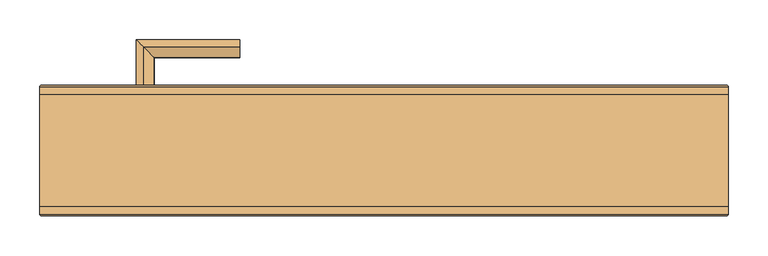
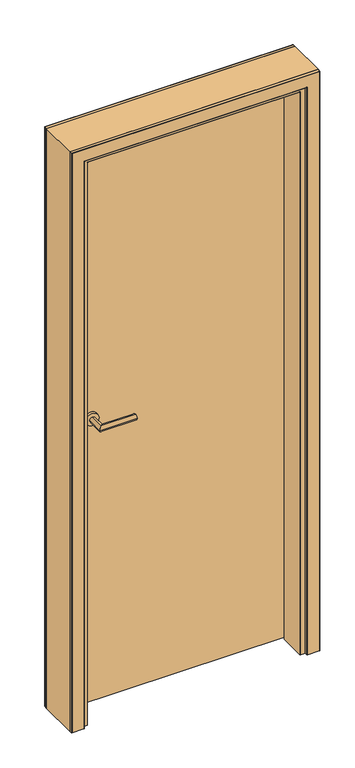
"""IFC4 building model written with IfcOpenShell, lengths in millimetres: door geometry, Doors_Swing_Strugal_Aluminium-Doors_Strugal-a3002iv_INT : Doors_Swing_Strugal_Aluminium-Doors_Strugal-a3002iv_INT."""

from ifc_helpers import new_model, si_unit, point, frame, frame_2d, origin, place, context, project, spatial, polyline, circle_curve, ellipse_curve, trimmed, segment, composite_curve, outline, extrude, source, transform, mapped, element, save
from ifc_brep_helpers import plane_surface, cylinder_surface, advanced_brep


def door_5d8b922e(model_context):
    return source(origin(), model_context, "Body", "SolidModel", [
        extrude(outline(composite_curve([segment(trimmed(circle_curve(frame_2d((1050.0, -301.4999348)), 22.5), [point((1050.0, -278.9999348))], [point((1050.0, -323.9999348))], False, "CARTESIAN"), True, "CONTINUOUS"), segment(trimmed(circle_curve(frame_2d((1050.0, -301.4999348)), 22.5), [point((1050.0, -323.9999348))], [point((1050.0, -278.9999348))], False, "CARTESIAN"), True, "CONTINUOUS")], self_intersect=False)), frame((0.0, 20.0210041, 0.0), z_axis=(0.0, 1.0, 0.0), x_axis=(0.0, 0.0, 1.0)), (0.0, 0.0, 1.0), 9.0),
        advanced_brep(
        [(-312.3121844, 20.0210041, 1050.0), (-303.5621844, 20.0210041, 1059.0214197), (-290.2883371, 20.0210041, 1051.6217874), (-290.2883371, 20.0210041, 1048.3782126), (-303.5621844, 20.0210041, 1040.9785803), (-312.3121844, -41.6703659, 1050.0), (-303.5621844, -32.9203659, 1059.0214197), (-303.5621844, -32.9203659, 1040.9785803), (-181.7133302, -41.6703659, 1050.0), (-181.7133302, -32.9203659, 1040.9785803), (-181.7133302, -19.6465185, 1048.3782126), (-181.7133302, -19.6465185, 1051.6217874), (-181.7133302, -32.9203659, 1059.0214197), (-290.2883371, -19.6465185, 1048.3782126), (-290.2883371, -19.6465185, 1051.6217874)],
        [
            (0, 1, circle_curve(frame((-303.2865551, 20.0210041, 1050.0), z_axis=(0.0, 1.0, 0.0), x_axis=(-1.0, 0.0, 0.0)), 9.0256293)),
            (1, 2, circle_curve(frame((-303.1101677, 20.0210041, 1044.2267939), z_axis=(0.0, 1.0, 0.0), x_axis=(-1.0, 0.0, 0.0)), 14.8015293)),
            (2, 3, circle_curve(frame((-293.1002778, 20.0210041, 1050.0), z_axis=(0.0, 1.0, 0.0), x_axis=(-1.0, 0.0, 0.0)), 3.2461062)),
            (3, 4, circle_curve(frame((-303.1101677, 20.0210041, 1055.7732061), z_axis=(0.0, 1.0, 0.0), x_axis=(-1.0, 0.0, 0.0)), 14.8015293)),
            (4, 0, circle_curve(frame((-303.2865551, 20.0210041, 1050.0), z_axis=(0.0, 1.0, 0.0), x_axis=(-1.0, 0.0, 0.0)), 9.0256293)),
            (0, 5),
            (5, 6, ellipse_curve(frame((-303.2865551, -32.6447366, 1050.0), z_axis=(-0.7071067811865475, 0.7071067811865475, 0.0), x_axis=(0.7071067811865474, 0.7071067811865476, 0.0)), 12.7641674, 9.0256293)),
            (6, 1),
            (4, 7),
            (7, 5, ellipse_curve(frame((-303.2865551, -32.6447366, 1050.0), z_axis=(-0.7071067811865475, 0.7071067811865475, 0.0), x_axis=(0.7071067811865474, 0.7071067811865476, 0.0)), 12.7641674, 9.0256293)),
            (8, 9, circle_curve(frame((-181.7133302, -32.6447366, 1050.0), z_axis=(1.0, 0.0, 0.0), x_axis=(0.0, -1.0, 0.0)), 9.0256293)),
            (9, 10, circle_curve(frame((-181.7133302, -32.4683492, 1055.7732061), z_axis=(1.0, 0.0, 0.0), x_axis=(0.0, -1.0, 0.0)), 14.8015293)),
            (10, 11, circle_curve(frame((-181.7133302, -22.4584593, 1050.0), z_axis=(1.0, 0.0, 0.0), x_axis=(0.0, -1.0, 0.0)), 3.2461062)),
            (11, 12, circle_curve(frame((-181.7133302, -32.4683492, 1044.2267939), z_axis=(1.0, 0.0, 0.0), x_axis=(0.0, -1.0, 0.0)), 14.8015293)),
            (12, 8, circle_curve(frame((-181.7133302, -32.6447366, 1050.0), z_axis=(1.0, 0.0, 0.0), x_axis=(0.0, -1.0, 0.0)), 9.0256293)),
            (5, 8),
            (12, 6),
            (7, 9),
            (3, 13),
            (13, 7, ellipse_curve(frame((-303.1101677, -32.4683492, 1055.7732061), z_axis=(-0.7071067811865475, 0.7071067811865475, 0.0), x_axis=(0.7071067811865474, 0.7071067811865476, 0.0)), 20.9325235, 14.8015293)),
            (2, 14),
            (14, 13, ellipse_curve(frame((-293.1002778, -22.4584593, 1050.0), z_axis=(-0.7071067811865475, 0.7071067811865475, 0.0), x_axis=(0.7071067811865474, 0.7071067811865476, 0.0)), 4.5906874, 3.2461062)),
            (6, 14, ellipse_curve(frame((-303.1101677, -32.4683492, 1044.2267939), z_axis=(-0.7071067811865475, 0.7071067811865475, 0.0), x_axis=(0.7071067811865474, 0.7071067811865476, 0.0)), 20.9325235, 14.8015293)),
            (13, 10),
            (14, 11),
        ],
        [
            plane_surface(frame((-301.4999348, 20.0210041, 1050.0), z_axis=(0.0, 1.0, 0.0), x_axis=(0.0, 0.0, 1.0))),
            cylinder_surface(frame((-303.2865551, 20.0210041, 1050.0), z_axis=(0.0, 1.0, 0.0), x_axis=(-1.0, 0.0, 0.0)), 9.0256293),
            plane_surface(frame((-181.7133302, -30.8581162, 1050.0), z_axis=(1.0, 0.0, 0.0), x_axis=(0.0, 0.0, 1.0))),
            cylinder_surface(frame((-301.4999348, -32.6447366, 1050.0), z_axis=(-1.0, 0.0, 0.0), x_axis=(0.0, -1.0, 0.0)), 9.0256293),
            cylinder_surface(frame((-303.1101677, 20.0210041, 1055.7732061), z_axis=(0.0, 1.0, 0.0), x_axis=(-1.0, 0.0, 0.0)), 14.8015293),
            cylinder_surface(frame((-293.1002778, 20.0210041, 1050.0), z_axis=(0.0, 1.0, 0.0), x_axis=(-1.0, 0.0, 0.0)), 3.2461062),
            cylinder_surface(frame((-303.1101677, 20.0210041, 1044.2267939), z_axis=(0.0, 1.0, 0.0), x_axis=(-1.0, 0.0, 0.0)), 14.8015293),
            cylinder_surface(frame((-301.4999348, -32.4683492, 1055.7732061), z_axis=(-1.0, 0.0, 0.0), x_axis=(0.0, -1.0, 0.0)), 14.8015293),
            cylinder_surface(frame((-301.4999348, -22.4584593, 1050.0), z_axis=(-1.0, 0.0, 0.0), x_axis=(0.0, -1.0, 0.0)), 3.2461062),
            cylinder_surface(frame((-301.4999348, -32.4683492, 1044.2267939), z_axis=(-1.0, 0.0, 0.0), x_axis=(0.0, -1.0, 0.0)), 14.8015293),
        ],
        [
            (0, [[1, 2, 3, 4, 5]]),
            (1, [[6, 7, 8, -1]]),
            (1, [[9, 10, -6, -5]]),
            (2, [[11, 12, 13, 14, 15]]),
            (3, [[16, -15, 17, -7]]),
            (3, [[18, -11, -16, -10]]),
            (4, [[19, 20, -9, -4]]),
            (5, [[21, 22, -19, -3]]),
            (6, [[-8, 23, -21, -2]]),
            (7, [[24, -12, -18, -20]]),
            (8, [[25, -13, -24, -22]]),
            (9, [[-17, -14, -25, -23]]),
        ],
    ),
        extrude(outline(composite_curve([segment(trimmed(circle_curve(frame_2d((1050.0, -301.4999348)), 22.5), [point((1050.0, -278.9999348))], [point((1050.0, -323.9999348))], False, "CARTESIAN"), True, "CONTINUOUS"), segment(trimmed(circle_curve(frame_2d((1050.0, -301.4999348)), 22.5), [point((1050.0, -323.9999348))], [point((1050.0, -278.9999348))], False, "CARTESIAN"), True, "CONTINUOUS")], self_intersect=False)), frame((0.0, 69.0195713, 0.0), z_axis=(0.0, 1.0, 0.0), x_axis=(0.0, 0.0, 1.0)), (0.0, 0.0, 1.0), 9.0),
        advanced_brep(
        [(-312.3121844, 78.0195713, 1050.0), (-303.5621844, 78.0195713, 1040.9785803), (-290.2883371, 78.0195713, 1048.3782126), (-290.2883371, 78.0195713, 1051.6217874), (-303.5621844, 78.0195713, 1059.0214197), (-312.3121844, 139.7109413, 1050.0), (-303.5621844, 130.9609413, 1040.9785803), (-303.5621844, 130.9609413, 1059.0214197), (-181.7133302, 139.7109413, 1050.0), (-181.7133302, 130.9609413, 1059.0214197), (-181.7133302, 117.6870939, 1051.6217874), (-181.7133302, 117.6870939, 1048.3782126), (-181.7133302, 130.9609413, 1040.9785803), (-290.2883371, 117.6870939, 1051.6217874), (-290.2883371, 117.6870939, 1048.3782126)],
        [
            (0, 1, circle_curve(frame((-303.2865551, 78.0195713, 1050.0), z_axis=(0.0, -1.0, 0.0), x_axis=(-1.0, 0.0, 0.0)), 9.0256293)),
            (1, 2, circle_curve(frame((-303.1101677, 78.0195713, 1055.7732061), z_axis=(0.0, -1.0, 0.0), x_axis=(-1.0, 0.0, 0.0)), 14.8015293)),
            (2, 3, circle_curve(frame((-293.1002778, 78.0195713, 1050.0), z_axis=(0.0, -1.0, 0.0), x_axis=(-1.0, 0.0, 0.0)), 3.2461062)),
            (3, 4, circle_curve(frame((-303.1101677, 78.0195713, 1044.2267939), z_axis=(0.0, -1.0, 0.0), x_axis=(-1.0, 0.0, 0.0)), 14.8015293)),
            (4, 0, circle_curve(frame((-303.2865551, 78.0195713, 1050.0), z_axis=(0.0, -1.0, 0.0), x_axis=(-1.0, 0.0, 0.0)), 9.0256293)),
            (0, 5),
            (5, 6, ellipse_curve(frame((-303.2865551, 130.685312, 1050.0), z_axis=(-0.7071067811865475, -0.7071067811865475, 0.0), x_axis=(0.7071067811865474, -0.7071067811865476, 0.0)), 12.7641674, 9.0256293)),
            (6, 1),
            (4, 7),
            (7, 5, ellipse_curve(frame((-303.2865551, 130.685312, 1050.0), z_axis=(-0.7071067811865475, -0.7071067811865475, 0.0), x_axis=(0.7071067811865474, -0.7071067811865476, 0.0)), 12.7641674, 9.0256293)),
            (8, 9, circle_curve(frame((-181.7133302, 130.685312, 1050.0), z_axis=(1.0, 0.0, 0.0), x_axis=(0.0, 1.0, 0.0)), 9.0256293)),
            (9, 10, circle_curve(frame((-181.7133302, 130.5089246, 1044.2267939), z_axis=(1.0, 0.0, 0.0), x_axis=(0.0, 1.0, 0.0)), 14.8015293)),
            (10, 11, circle_curve(frame((-181.7133302, 120.4990347, 1050.0), z_axis=(1.0, 0.0, 0.0), x_axis=(0.0, 1.0, 0.0)), 3.2461062)),
            (11, 12, circle_curve(frame((-181.7133302, 130.5089246, 1055.7732061), z_axis=(1.0, 0.0, 0.0), x_axis=(0.0, 1.0, 0.0)), 14.8015293)),
            (12, 8, circle_curve(frame((-181.7133302, 130.685312, 1050.0), z_axis=(1.0, 0.0, 0.0), x_axis=(0.0, 1.0, 0.0)), 9.0256293)),
            (5, 8),
            (12, 6),
            (7, 9),
            (3, 13),
            (13, 7, ellipse_curve(frame((-303.1101677, 130.5089246, 1044.2267939), z_axis=(-0.7071067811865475, -0.7071067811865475, 0.0), x_axis=(0.7071067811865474, -0.7071067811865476, 0.0)), 20.9325235, 14.8015293)),
            (2, 14),
            (14, 13, ellipse_curve(frame((-293.1002778, 120.4990347, 1050.0), z_axis=(-0.7071067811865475, -0.7071067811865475, 0.0), x_axis=(0.7071067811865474, -0.7071067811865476, 0.0)), 4.5906874, 3.2461062)),
            (6, 14, ellipse_curve(frame((-303.1101677, 130.5089246, 1055.7732061), z_axis=(-0.7071067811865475, -0.7071067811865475, 0.0), x_axis=(0.7071067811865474, -0.7071067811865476, 0.0)), 20.9325235, 14.8015293)),
            (13, 10),
            (14, 11),
        ],
        [
            plane_surface(frame((-301.4999348, 78.0195713, 1050.0), z_axis=(0.0, -1.0, 0.0), x_axis=(0.0, 0.0, -1.0))),
            cylinder_surface(frame((-303.2865551, 78.0195713, 1050.0), z_axis=(0.0, -1.0, 0.0), x_axis=(-1.0, 0.0, 0.0)), 9.0256293),
            plane_surface(frame((-181.7133302, 128.8986916, 1050.0), z_axis=(1.0, 0.0, 0.0), x_axis=(0.0, 0.0, -1.0))),
            cylinder_surface(frame((-301.4999348, 130.685312, 1050.0), z_axis=(-1.0, 0.0, 0.0), x_axis=(0.0, 1.0, 0.0)), 9.0256293),
            cylinder_surface(frame((-303.1101677, 78.0195713, 1044.2267939), z_axis=(0.0, -1.0, 0.0), x_axis=(-1.0, 0.0, 0.0)), 14.8015293),
            cylinder_surface(frame((-293.1002778, 78.0195713, 1050.0), z_axis=(0.0, -1.0, 0.0), x_axis=(-1.0, 0.0, 0.0)), 3.2461062),
            cylinder_surface(frame((-303.1101677, 78.0195713, 1055.7732061), z_axis=(0.0, -1.0, 0.0), x_axis=(-1.0, 0.0, 0.0)), 14.8015293),
            cylinder_surface(frame((-301.4999348, 130.5089246, 1044.2267939), z_axis=(-1.0, 0.0, 0.0), x_axis=(0.0, 1.0, 0.0)), 14.8015293),
            cylinder_surface(frame((-301.4999348, 120.4990347, 1050.0), z_axis=(-1.0, 0.0, 0.0), x_axis=(0.0, 1.0, 0.0)), 3.2461062),
            cylinder_surface(frame((-301.4999348, 130.5089246, 1055.7732061), z_axis=(-1.0, 0.0, 0.0), x_axis=(0.0, 1.0, 0.0)), 14.8015293),
        ],
        [
            (0, [[1, 2, 3, 4, 5]]),
            (1, [[6, 7, 8, -1]]),
            (1, [[9, 10, -6, -5]]),
            (2, [[11, 12, 13, 14, 15]]),
            (3, [[16, -15, 17, -7]]),
            (3, [[18, -11, -16, -10]]),
            (4, [[19, 20, -9, -4]]),
            (5, [[21, 22, -19, -3]]),
            (6, [[-8, 23, -21, -2]]),
            (7, [[24, -12, -18, -20]]),
            (8, [[25, -13, -24, -22]]),
            (9, [[-17, -14, -25, -23]]),
        ],
    ),
        extrude(outline(polyline([(0.0, -400.0), (2106.5, -400.0), (2106.5, 400.0), (0.0, 400.0), (0.0, 434.0009959), (2140.5009959, 434.0009959), (2140.5009959, -434.0009959), (0.0, -434.0009959), (0.0, -400.0)])), frame((0.0, -70.0, 0.0), z_axis=(0.0, 1.0, 0.0), x_axis=(0.0, 0.0, 1.0)), (0.0, 0.0, 1.0), 140.0),
        extrude(outline(polyline([(378.2381716, 29.0210041), (-378.2381716, 29.0210041), (-378.729808, 29.8139325), (-379.9347489, 68.1557733), (-379.4715845, 69.0195713), (379.4715845, 69.0195713), (379.9347489, 68.1557733), (378.729808, 29.8139325), (378.2381716, 29.0210041)])), frame((0.0, 0.0, 4.5068497), z_axis=(0.0, 0.0, 1.0), x_axis=(1.0, 0.0, 0.0)), (0.0, 0.0, 1.0), 2076.0133601),
        advanced_brep(
        [(-400.0, 70.0, 0.0), (-434.0000121, 70.0, 0.0), (-434.0000121, 80.2, 0.0), (-432.2000121, 82.0, 0.0), (-390.8000121, 82.0, 0.0), (-389.0000121, 80.2, 0.0), (-389.0000121, 70.0, 0.0), (-383.500507, 70.0, 0.0), (-382.001079, 68.4585793, 0.0), (-382.001079, 26.0, 0.0), (-371.4999348, 26.0, 0.0), (-371.4999348, -68.5, 0.0), (-372.9999348, -70.0, 0.0), (-389.0000121, -70.0, 0.0), (-389.0000121, -80.2, 0.0), (-390.8000121, -82.0, 0.0), (-432.2000121, -82.0, 0.0), (-434.0000121, -80.2, 0.0), (-434.0000121, -70.0, 0.0), (-400.0, -70.0, 0.0), (-400.0, -70.0, 2106.5), (-400.0, 70.0, 2106.5), (-434.0000121, -70.0, 2140.5000121), (434.0000121, -70.0, 2140.5000121), (434.0000121, -70.0, 0.0), (400.0, -70.0, 0.0), (400.0, -70.0, 2106.5), (-434.0000121, -80.2, 2140.5000121), (-432.2000121, -82.0, 2138.7000121), (-390.8000121, -82.0, 2097.3000121), (390.8000121, -82.0, 2097.3000121), (390.8000121, -82.0, 0.0), (432.2000121, -82.0, 0.0), (432.2000121, -82.0, 2138.7000121), (-389.0000121, -80.2, 2095.5000121), (-389.0000121, -70.0, 2095.5000121), (-372.9999348, -70.0, 2079.4999348), (372.9999348, -70.0, 2079.4999348), (372.9999348, -70.0, 0.0), (389.0000121, -70.0, 0.0), (389.0000121, -70.0, 2095.5000121), (-371.4999348, -68.5, 2077.9999348), (-371.4999348, 26.0, 2077.9999348), (-382.001079, 26.0, 2088.501079), (382.001079, 26.0, 2088.501079), (382.001079, 26.0, 0.0), (371.4999348, 26.0, 0.0), (371.4999348, 26.0, 2077.9999348), (-382.001079, 68.4585793, 2088.501079), (-383.500507, 70.0, 2090.000507), (-389.0000121, 70.0, 2095.5000121), (389.0000121, 70.0, 2095.5000121), (389.0000121, 70.0, 0.0), (383.500507, 70.0, 0.0), (383.500507, 70.0, 2090.000507), (-389.0000121, 80.2, 2095.5000121), (-390.8000121, 82.0, 2097.3000121), (-432.2000121, 82.0, 2138.7000121), (432.2000121, 82.0, 2138.7000121), (432.2000121, 82.0, 0.0), (390.8000121, 82.0, 0.0), (390.8000121, 82.0, 2097.3000121), (-434.0000121, 80.2, 2140.5000121), (-434.0000121, 70.0, 2140.5000121), (400.0, 70.0, 2106.5), (400.0, 70.0, 0.0), (434.0000121, 70.0, 0.0), (434.0000121, 70.0, 2140.5000121), (434.0000121, -80.2, 0.0), (389.0000121, -80.2, 0.0), (371.4999348, -68.5, 0.0), (382.001079, 68.4585793, 0.0), (389.0000121, 80.2, 0.0), (434.0000121, 80.2, 0.0), (434.0000121, 80.2, 2140.5000121), (389.0000121, 80.2, 2095.5000121), (382.001079, 68.4585793, 2088.501079), (371.4999348, -68.5, 2077.9999348), (389.0000121, -80.2, 2095.5000121), (434.0000121, -80.2, 2140.5000121)],
        [
            (0, 1),
            (1, 2),
            (2, 3, circle_curve(frame((-432.2000121, 80.2, 0.0), z_axis=(0.0, 0.0, -1.0), x_axis=(-1.0, 0.0, 0.0)), 1.8)),
            (3, 4),
            (4, 5, circle_curve(frame((-390.8000121, 80.2, 0.0), z_axis=(0.0, 0.0, -1.0), x_axis=(-1.0, 0.0, 0.0)), 1.8)),
            (5, 6),
            (6, 7),
            (7, 8, circle_curve(frame((-383.500507, 68.5, 0.0), z_axis=(0.0, 0.0, -1.0), x_axis=(-1.0, 0.0, 0.0)), 1.5)),
            (8, 9),
            (9, 10),
            (10, 11),
            (11, 12, circle_curve(frame((-372.9999348, -68.5, 0.0), z_axis=(0.0, 0.0, -1.0), x_axis=(-1.0, 0.0, 0.0)), 1.5)),
            (12, 13),
            (13, 14),
            (14, 15, circle_curve(frame((-390.8000121, -80.2, 0.0), z_axis=(0.0, 0.0, -1.0), x_axis=(-1.0, 0.0, 0.0)), 1.8)),
            (15, 16),
            (16, 17, circle_curve(frame((-432.2000121, -80.2, 0.0), z_axis=(0.0, 0.0, -1.0), x_axis=(-1.0, 0.0, 0.0)), 1.8)),
            (17, 18),
            (18, 19),
            (19, 0),
            (19, 20),
            (20, 21),
            (21, 0),
            (18, 22),
            (22, 23),
            (23, 24),
            (24, 25),
            (25, 26),
            (26, 20),
            (17, 27),
            (27, 22),
            (16, 28),
            (28, 27, ellipse_curve(frame((-432.2000121, -80.2, 2138.7000121), z_axis=(-0.7071067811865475, 0.0, -0.7071067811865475), x_axis=(0.7071067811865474, 0.0, -0.7071067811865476)), 2.5455844, 1.8)),
            (15, 29),
            (29, 30),
            (30, 31),
            (31, 32),
            (32, 33),
            (33, 28),
            (14, 34),
            (34, 29, ellipse_curve(frame((-390.8000121, -80.2, 2097.3000121), z_axis=(-0.7071067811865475, 0.0, -0.7071067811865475), x_axis=(0.7071067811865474, 0.0, -0.7071067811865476)), 2.5455844, 1.8)),
            (13, 35),
            (35, 34),
            (12, 36),
            (36, 37),
            (37, 38),
            (38, 39),
            (39, 40),
            (40, 35),
            (11, 41),
            (41, 36, ellipse_curve(frame((-372.9999348, -68.5, 2079.4999348), z_axis=(-0.7071067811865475, 0.0, -0.7071067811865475), x_axis=(0.7071067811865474, 0.0, -0.7071067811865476)), 2.1213203, 1.5)),
            (10, 42),
            (42, 41),
            (9, 43),
            (43, 44),
            (44, 45),
            (45, 46),
            (46, 47),
            (47, 42),
            (8, 48),
            (48, 43),
            (7, 49),
            (49, 48, ellipse_curve(frame((-383.500507, 68.5, 2090.000507), z_axis=(-0.7071067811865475, 0.0, -0.7071067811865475), x_axis=(0.7071067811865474, 0.0, -0.7071067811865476)), 2.1213203, 1.5)),
            (6, 50),
            (50, 51),
            (51, 52),
            (52, 53),
            (53, 54),
            (54, 49),
            (5, 55),
            (55, 50),
            (4, 56),
            (56, 55, ellipse_curve(frame((-390.8000121, 80.2, 2097.3000121), z_axis=(-0.7071067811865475, 0.0, -0.7071067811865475), x_axis=(0.7071067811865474, 0.0, -0.7071067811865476)), 2.5455844, 1.8)),
            (3, 57),
            (57, 58),
            (58, 59),
            (59, 60),
            (60, 61),
            (61, 56),
            (2, 62),
            (62, 57, ellipse_curve(frame((-432.2000121, 80.2, 2138.7000121), z_axis=(-0.7071067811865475, 0.0, -0.7071067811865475), x_axis=(0.7071067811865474, 0.0, -0.7071067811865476)), 2.5455844, 1.8)),
            (1, 63),
            (63, 62),
            (21, 64),
            (64, 65),
            (65, 66),
            (66, 67),
            (67, 63),
            (65, 25),
            (24, 68),
            (68, 32, circle_curve(frame((432.2000121, -80.2, 0.0), z_axis=(0.0, 0.0, -1.0), x_axis=(1.0, 0.0, 0.0)), 1.8)),
            (31, 69, circle_curve(frame((390.8000121, -80.2, 0.0), z_axis=(0.0, 0.0, -1.0), x_axis=(1.0, 0.0, 0.0)), 1.8)),
            (69, 39),
            (38, 70, circle_curve(frame((372.9999348, -68.5, 0.0), z_axis=(0.0, 0.0, -1.0), x_axis=(1.0, 0.0, 0.0)), 1.5)),
            (70, 46),
            (45, 71),
            (71, 53, circle_curve(frame((383.500507, 68.5, 0.0), z_axis=(0.0, 0.0, -1.0), x_axis=(1.0, 0.0, 0.0)), 1.5)),
            (52, 72),
            (72, 60, circle_curve(frame((390.8000121, 80.2, 0.0), z_axis=(0.0, 0.0, -1.0), x_axis=(1.0, 0.0, 0.0)), 1.8)),
            (59, 73, circle_curve(frame((432.2000121, 80.2, 0.0), z_axis=(0.0, 0.0, -1.0), x_axis=(1.0, 0.0, 0.0)), 1.8)),
            (73, 66),
            (73, 74),
            (74, 67),
            (58, 74, ellipse_curve(frame((432.2000121, 80.2, 2138.7000121), z_axis=(0.7071067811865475, 0.0, -0.7071067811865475), x_axis=(0.7071067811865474, 0.0, 0.7071067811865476)), 2.5455844, 1.8)),
            (72, 75),
            (75, 61, ellipse_curve(frame((390.8000121, 80.2, 2097.3000121), z_axis=(0.7071067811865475, 0.0, -0.7071067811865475), x_axis=(0.7071067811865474, 0.0, 0.7071067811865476)), 2.5455844, 1.8)),
            (51, 75),
            (71, 76),
            (76, 54, ellipse_curve(frame((383.500507, 68.5, 2090.000507), z_axis=(0.7071067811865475, 0.0, -0.7071067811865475), x_axis=(0.7071067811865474, 0.0, 0.7071067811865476)), 2.1213203, 1.5)),
            (44, 76),
            (70, 77),
            (77, 47),
            (37, 77, ellipse_curve(frame((372.9999348, -68.5, 2079.4999348), z_axis=(0.7071067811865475, 0.0, -0.7071067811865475), x_axis=(0.7071067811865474, 0.0, 0.7071067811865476)), 2.1213203, 1.5)),
            (69, 78),
            (78, 40),
            (30, 78, ellipse_curve(frame((390.8000121, -80.2, 2097.3000121), z_axis=(0.7071067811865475, 0.0, -0.7071067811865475), x_axis=(0.7071067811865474, 0.0, 0.7071067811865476)), 2.5455844, 1.8)),
            (68, 79),
            (79, 33, ellipse_curve(frame((432.2000121, -80.2, 2138.7000121), z_axis=(0.7071067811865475, 0.0, -0.7071067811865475), x_axis=(0.7071067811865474, 0.0, 0.7071067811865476)), 2.5455844, 1.8)),
            (23, 79),
            (64, 26),
            (41, 77),
            (48, 76),
            (27, 79),
            (34, 78),
            (55, 75),
            (62, 74),
        ],
        [
            plane_surface(frame((-434.0009959, 70.0, 0.0), z_axis=(0.0, 0.0, -1.0), x_axis=(0.0, 1.0, 0.0))),
            plane_surface(frame((-400.0, 70.0, 0.0), z_axis=(-1.0, 0.0, 0.0), x_axis=(0.0, 0.0, 1.0))),
            plane_surface(frame((-400.0, -70.0, 0.0), z_axis=(0.0, 1.0, 0.0), x_axis=(0.0, 0.0, 1.0))),
            plane_surface(frame((-434.0000121, -70.0, 0.0), z_axis=(-1.0, 0.0, 0.0), x_axis=(0.0, 0.0, 1.0))),
            cylinder_surface(frame((-432.2000121, -80.2, 0.0), z_axis=(0.0, 0.0, -1.0), x_axis=(-1.0, 0.0, 0.0)), 1.8),
            plane_surface(frame((-432.2000121, -82.0, 0.0), z_axis=(0.0, -1.0, 0.0), x_axis=(0.0, 0.0, 1.0))),
            cylinder_surface(frame((-390.8000121, -80.2, 0.0), z_axis=(0.0, 0.0, -1.0), x_axis=(-1.0, 0.0, 0.0)), 1.8),
            plane_surface(frame((-389.0000121, -80.2, 0.0), z_axis=(1.0, 0.0, 0.0), x_axis=(0.0, 0.0, 1.0))),
            plane_surface(frame((-389.0000121, -70.0, 0.0), z_axis=(0.0, -1.0, 0.0), x_axis=(0.0, 0.0, 1.0))),
            cylinder_surface(frame((-372.9999348, -68.5, 0.0), z_axis=(0.0, 0.0, -1.0), x_axis=(-1.0, 0.0, 0.0)), 1.5),
            plane_surface(frame((-371.4999348, -68.5, 0.0), z_axis=(1.0, 0.0, 0.0), x_axis=(0.0, 0.0, 1.0))),
            plane_surface(frame((-371.4999348, 26.0, 0.0), z_axis=(0.0, 1.0, 0.0), x_axis=(0.0, 0.0, 1.0))),
            plane_surface(frame((-382.001079, 26.0, 0.0), z_axis=(1.0, 0.0, 0.0), x_axis=(0.0, 0.0, 1.0))),
            cylinder_surface(frame((-383.500507, 68.5, 0.0), z_axis=(0.0, 0.0, -1.0), x_axis=(-1.0, 0.0, 0.0)), 1.5),
            plane_surface(frame((-383.500507, 70.0, 0.0), z_axis=(0.0, 1.0, 0.0), x_axis=(0.0, 0.0, 1.0))),
            plane_surface(frame((-389.0000121, 70.0, 0.0), z_axis=(1.0, 0.0, 0.0), x_axis=(0.0, 0.0, 1.0))),
            cylinder_surface(frame((-390.8000121, 80.2, 0.0), z_axis=(0.0, 0.0, -1.0), x_axis=(-1.0, 0.0, 0.0)), 1.8),
            plane_surface(frame((-390.8000121, 82.0, 0.0), z_axis=(0.0, 1.0, 0.0), x_axis=(0.0, 0.0, 1.0))),
            cylinder_surface(frame((-432.2000121, 80.2, 0.0), z_axis=(0.0, 0.0, -1.0), x_axis=(-1.0, 0.0, 0.0)), 1.8),
            plane_surface(frame((-434.0000121, 80.2, 0.0), z_axis=(-1.0, 0.0, 0.0), x_axis=(0.0, 0.0, 1.0))),
            plane_surface(frame((-434.0000121, 70.0, 0.0), z_axis=(0.0, -1.0, 0.0), x_axis=(0.0, 0.0, 1.0))),
            plane_surface(frame((434.0009959, 70.0, 0.0), z_axis=(0.0, 0.0, -1.0), x_axis=(0.0, 1.0, 0.0))),
            plane_surface(frame((434.0000121, 80.2, 2140.5000121), z_axis=(1.0, 0.0, 0.0), x_axis=(0.0, 0.0, -1.0))),
            cylinder_surface(frame((432.2000121, 80.2, 2140.5009959), z_axis=(0.0, 0.0, 1.0), x_axis=(1.0, 0.0, 0.0)), 1.8),
            cylinder_surface(frame((390.8000121, 80.2, 2140.5009959), z_axis=(0.0, 0.0, 1.0), x_axis=(1.0, 0.0, 0.0)), 1.8),
            plane_surface(frame((389.0000121, 70.0, 2095.5000121), z_axis=(-1.0, 0.0, 0.0), x_axis=(0.0, 0.0, -1.0))),
            cylinder_surface(frame((383.500507, 68.5, 2140.5009959), z_axis=(0.0, 0.0, 1.0), x_axis=(1.0, 0.0, 0.0)), 1.5),
            plane_surface(frame((382.001079, 26.0, 2088.501079), z_axis=(-1.0, 0.0, 0.0), x_axis=(0.0, 0.0, -1.0))),
            plane_surface(frame((371.4999348, -68.5, 2077.9999348), z_axis=(-1.0, 0.0, 0.0), x_axis=(0.0, 0.0, -1.0))),
            cylinder_surface(frame((372.9999348, -68.5, 2140.5009959), z_axis=(0.0, 0.0, 1.0), x_axis=(1.0, 0.0, 0.0)), 1.5),
            plane_surface(frame((389.0000121, -80.2, 2095.5000121), z_axis=(-1.0, 0.0, 0.0), x_axis=(0.0, 0.0, -1.0))),
            cylinder_surface(frame((390.8000121, -80.2, 2140.5009959), z_axis=(0.0, 0.0, 1.0), x_axis=(1.0, 0.0, 0.0)), 1.8),
            cylinder_surface(frame((432.2000121, -80.2, 2140.5009959), z_axis=(0.0, 0.0, 1.0), x_axis=(1.0, 0.0, 0.0)), 1.8),
            plane_surface(frame((434.0000121, -70.0, 2140.5000121), z_axis=(1.0, 0.0, 0.0), x_axis=(0.0, 0.0, -1.0))),
            plane_surface(frame((400.0, 70.0, 2106.5), z_axis=(1.0, 0.0, 0.0), x_axis=(0.0, 0.0, -1.0))),
            cylinder_surface(frame((-434.0009959, -68.5, 2079.4999348), z_axis=(-1.0, 0.0, 0.0), x_axis=(0.0, 0.0, 1.0)), 1.5),
            plane_surface(frame((-371.4999348, -68.5, 2077.9999348), z_axis=(0.0, 0.0, -1.0), x_axis=(1.0, 0.0, 0.0))),
            plane_surface(frame((-382.001079, 26.0, 2088.501079), z_axis=(0.0, 0.0, -1.0), x_axis=(1.0, 0.0, 0.0))),
            cylinder_surface(frame((-434.0009959, 68.5, 2090.000507), z_axis=(-1.0, 0.0, 0.0), x_axis=(0.0, 0.0, 1.0)), 1.5),
            plane_surface(frame((-400.0, 70.0, 2106.5), z_axis=(0.0, 0.0, 1.0), x_axis=(1.0, 0.0, 0.0))),
            plane_surface(frame((-434.0000121, -70.0, 2140.5000121), z_axis=(0.0, 0.0, 1.0), x_axis=(1.0, 0.0, 0.0))),
            cylinder_surface(frame((-434.0009959, -80.2, 2138.7000121), z_axis=(-1.0, 0.0, 0.0), x_axis=(0.0, 0.0, 1.0)), 1.8),
            cylinder_surface(frame((-434.0009959, -80.2, 2097.3000121), z_axis=(-1.0, 0.0, 0.0), x_axis=(0.0, 0.0, 1.0)), 1.8),
            plane_surface(frame((-389.0000121, -80.2, 2095.5000121), z_axis=(0.0, 0.0, -1.0), x_axis=(1.0, 0.0, 0.0))),
            plane_surface(frame((-389.0000121, 70.0, 2095.5000121), z_axis=(0.0, 0.0, -1.0), x_axis=(1.0, 0.0, 0.0))),
            cylinder_surface(frame((-434.0009959, 80.2, 2097.3000121), z_axis=(-1.0, 0.0, 0.0), x_axis=(0.0, 0.0, 1.0)), 1.8),
            cylinder_surface(frame((-434.0009959, 80.2, 2138.7000121), z_axis=(-1.0, 0.0, 0.0), x_axis=(0.0, 0.0, 1.0)), 1.8),
            plane_surface(frame((-434.0000121, 80.2, 2140.5000121), z_axis=(0.0, 0.0, 1.0), x_axis=(1.0, 0.0, 0.0))),
        ],
        [
            (0, [[1, 2, 3, 4, 5, 6, 7, 8, 9, 10, 11, 12, 13, 14, 15, 16, 17, 18, 19, 20]]),
            (1, [[21, 22, 23, -20]]),
            (2, [[24, 25, 26, 27, 28, 29, -21, -19]]),
            (3, [[30, 31, -24, -18]]),
            (4, [[32, 33, -30, -17]]),
            (5, [[34, 35, 36, 37, 38, 39, -32, -16]]),
            (6, [[40, 41, -34, -15]]),
            (7, [[42, 43, -40, -14]]),
            (8, [[44, 45, 46, 47, 48, 49, -42, -13]]),
            (9, [[50, 51, -44, -12]]),
            (10, [[52, 53, -50, -11]]),
            (11, [[54, 55, 56, 57, 58, 59, -52, -10]]),
            (12, [[60, 61, -54, -9]]),
            (13, [[62, 63, -60, -8]]),
            (14, [[64, 65, 66, 67, 68, 69, -62, -7]]),
            (15, [[70, 71, -64, -6]]),
            (16, [[72, 73, -70, -5]]),
            (17, [[74, 75, 76, 77, 78, 79, -72, -4]]),
            (18, [[80, 81, -74, -3]]),
            (19, [[82, 83, -80, -2]]),
            (20, [[-23, 84, 85, 86, 87, 88, -82, -1]]),
            (21, [[89, -27, 90, 91, -37, 92, 93, -47, 94, 95, -57, 96, 97, -67, 98, 99, -77, 100, 101, -86]]),
            (22, [[-87, -101, 102, 103]]),
            (23, [[-102, -100, -76, 104]]),
            (24, [[-78, -99, 105, 106]]),
            (25, [[-105, -98, -66, 107]]),
            (26, [[-68, -97, 108, 109]]),
            (27, [[-108, -96, -56, 110]]),
            (28, [[-58, -95, 111, 112]]),
            (29, [[-111, -94, -46, 113]]),
            (30, [[-48, -93, 114, 115]]),
            (31, [[-114, -92, -36, 116]]),
            (32, [[-38, -91, 117, 118]]),
            (33, [[-117, -90, -26, 119]]),
            (34, [[-28, -89, -85, 120]]),
            (35, [[121, -113, -45, -51]]),
            (36, [[-59, -112, -121, -53]]),
            (37, [[122, -110, -55, -61]]),
            (38, [[-69, -109, -122, -63]]),
            (39, [[-29, -120, -84, -22]]),
            (40, [[123, -119, -25, -31]]),
            (41, [[-39, -118, -123, -33]]),
            (42, [[124, -116, -35, -41]]),
            (43, [[-49, -115, -124, -43]]),
            (44, [[125, -107, -65, -71]]),
            (45, [[-79, -106, -125, -73]]),
            (46, [[126, -104, -75, -81]]),
            (47, [[-88, -103, -126, -83]]),
        ],
    ),
    ])


if __name__ == "__main__":
    model = new_model("IFC4")
    model_context = context("Model", 3, world=origin())
    ifc_project = project(units=[si_unit("LENGTHUNIT", "METRE", prefix="MILLI")], contexts=[model_context])
    site = spatial("IfcSite", under=ifc_project)
    building = spatial("IfcBuilding", under=site)
    placement = place(None, origin())
    door_shape = door_5d8b922e(model_context)
    element("IfcDoor", 1, ObjectType="Doors_Swing_Strugal_Aluminium-Doors_Strugal-a3002iv_INT : Doors_Swing_Strugal_Aluminium-Doors_Strugal-a3002iv_INT", at=placement, inside=building, context=model_context, shape_type="MappedRepresentation", body=[
        mapped(door_shape, transform((0.0, 0.0, 0.0), x_axis=(1.0, 0.0, 0.0), y_axis=(0.0, 1.0, 0.0), z_axis=(0.0, 0.0, 1.0))),
    ])
    save(model, "model.ifc")
